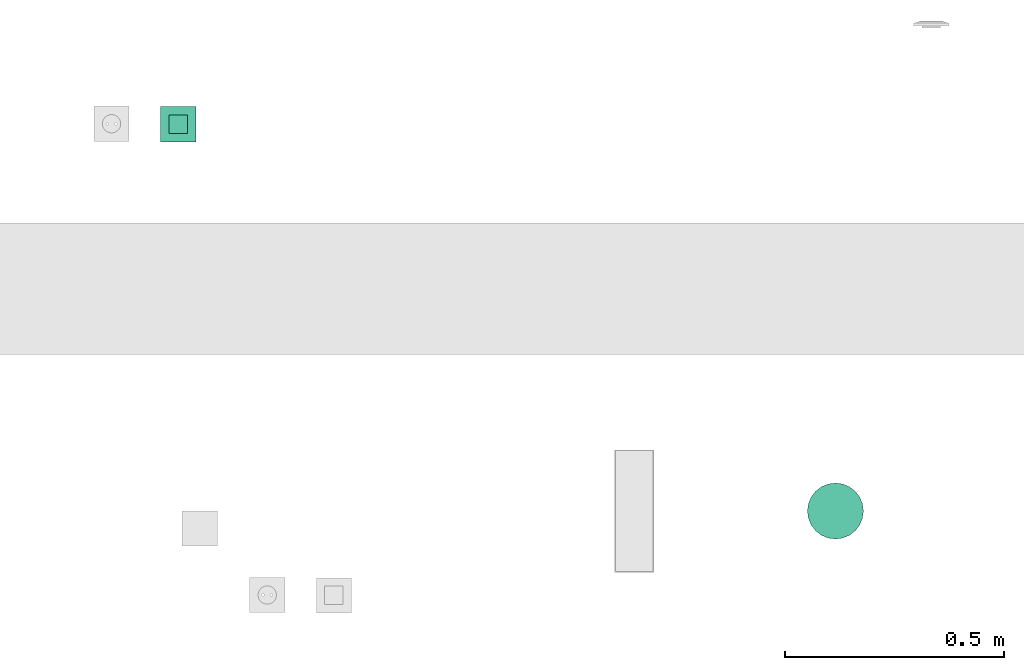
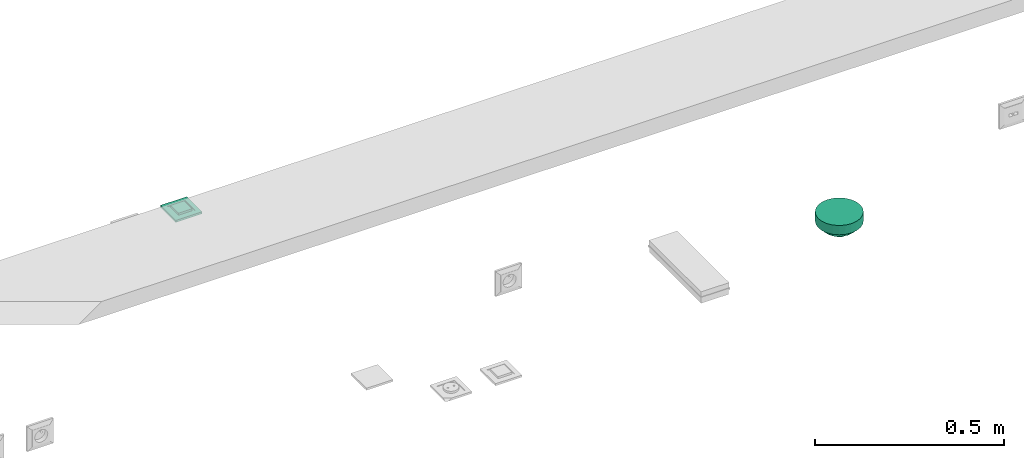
# One storey, part 86 of 146: 2 flow terminals.
"""IFC2X3 building model written with IfcOpenShell, lengths in metres."""

from ifc_helpers import new_model, entity, si_unit, converted_unit, derived_unit, direction, frame, origin, place, context, subcontext, project, spatial, faceted_brep, source, transform, mapped, type_object, type_shapes, element, save


model = new_model("IFC2X3")

# Units and contexts
model_context = context("Model", 3, precision=1e-05, world=origin(), true_north=direction((6.12303176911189e-17, 1.0)))
body_context = subcontext(model_context, "Body", "Model", "MODEL_VIEW")
ifc_project = project(units=[si_unit("LENGTHUNIT", "METRE"), si_unit("AREAUNIT", "SQUARE_METRE"), si_unit("VOLUMEUNIT", "CUBIC_METRE"), converted_unit("PLANEANGLEUNIT", "DEGREE", entity("IfcRatioMeasure", 0.0174532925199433), si_unit("PLANEANGLEUNIT", "RADIAN"), dimensions=[0, 0, 0, 0, 0, 0, 0]), si_unit("MASSUNIT", "GRAM", prefix="KILO"), derived_unit("MASSDENSITYUNIT", [(si_unit("MASSUNIT", "GRAM", prefix="KILO"), 1), (si_unit("LENGTHUNIT", "METRE"), -3)]), si_unit("TIMEUNIT", "SECOND"), si_unit("FREQUENCYUNIT", "HERTZ"), si_unit("THERMODYNAMICTEMPERATUREUNIT", "DEGREE_CELSIUS"), derived_unit("THERMALTRANSMITTANCEUNIT", [(si_unit("MASSUNIT", "GRAM", prefix="KILO"), 1), (si_unit("THERMODYNAMICTEMPERATUREUNIT", "KELVIN"), -1), (si_unit("TIMEUNIT", "SECOND"), -3)]), derived_unit("VOLUMETRICFLOWRATEUNIT", [(si_unit("LENGTHUNIT", "METRE"), 3), (si_unit("TIMEUNIT", "SECOND"), -1)]), si_unit("ELECTRICCURRENTUNIT", "AMPERE"), si_unit("ELECTRICVOLTAGEUNIT", "VOLT"), si_unit("POWERUNIT", "WATT"), si_unit("FORCEUNIT", "NEWTON"), si_unit("ILLUMINANCEUNIT", "LUX"), si_unit("LUMINOUSFLUXUNIT", "LUMEN"), si_unit("LUMINOUSINTENSITYUNIT", "CANDELA"), derived_unit("USERDEFINED", [(si_unit("MASSUNIT", "GRAM", prefix="KILO"), -1), (si_unit("LENGTHUNIT", "METRE"), -2), (si_unit("TIMEUNIT", "SECOND"), 3), (si_unit("LUMINOUSFLUXUNIT", "LUMEN"), 1)]), derived_unit("LINEARVELOCITYUNIT", [(si_unit("LENGTHUNIT", "METRE"), 1), (si_unit("TIMEUNIT", "SECOND"), -1)]), si_unit("PRESSUREUNIT", "PASCAL"), derived_unit("USERDEFINED", [(si_unit("LENGTHUNIT", "METRE"), -2), (si_unit("MASSUNIT", "GRAM", prefix="KILO"), 1), (si_unit("TIMEUNIT", "SECOND"), -2)])], contexts=[model_context])

# Site, building, storey
site_placement = place(None, origin())
site = spatial("IfcSite", under=ifc_project, at=site_placement, Name="Default", CompositionType="ELEMENT")
building_placement = place(site_placement, origin())
building = spatial("IfcBuilding", under=site, at=building_placement, CompositionType="ELEMENT")
storey_placement = place(building_placement, origin())
storey = spatial("IfcBuildingStorey", under=building, at=storey_placement, Name="S01", CompositionType="ELEMENT", Elevation=0.0)

# Flow terminals
light_fixture_type = type_object("IfcLightFixtureType", Name="Détecteur 360°", PredefinedType="NOTDEFINED")
shared_shape_1 = source(origin(), body_context, "Body", "Brep", [
    faceted_brep([(0.0, -0.0397165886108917, 0.0531256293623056), (0.0, -0.034524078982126, 0.0563702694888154), (-0.0175153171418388, -0.0435914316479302, 0.0478512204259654), (-0.0194029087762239, -0.000878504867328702, 0.0644483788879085), (0.0, 0.0, 0.0669999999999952), (0.0, 0.00603476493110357, 0.0659648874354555), (-0.0174057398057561, -0.0159851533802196, 0.0630502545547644), (-0.0366619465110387, -0.0127227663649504, 0.0549213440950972), (-0.026998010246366, -0.0195753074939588, 0.0584711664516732), (-0.0202403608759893, -0.0335607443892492, 0.054639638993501), (-0.0359767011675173, -0.0348394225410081, 0.0444249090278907), (-0.0276843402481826, -0.0401006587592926, 0.0459804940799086), (-0.0133088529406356, -0.0517577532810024, 0.0400582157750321), (-0.0172617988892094, -0.0486391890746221, 0.042533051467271), (-0.0256912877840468, -0.0533485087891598, 0.0299999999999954), (-0.0462941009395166, -0.0369183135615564, 0.0299999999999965), (0.0, -0.0241390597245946, 0.0628595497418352), (-0.0186245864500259, -0.0267295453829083, 0.0589100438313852), (-0.0139070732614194, -0.0374370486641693, 0.0540817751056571), (0.0, 0.0449090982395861, 0.049880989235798), (-0.0172618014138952, 0.0486391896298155, 0.0425330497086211), (0.0, 0.0397165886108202, 0.0531256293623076), (-0.0186245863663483, 0.0267295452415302, 0.0589100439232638), (-0.0202403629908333, 0.0335607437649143, 0.054639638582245), (-0.0353547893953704, 0.0284533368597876, 0.0494330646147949), (0.0, 0.0120695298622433, 0.0649297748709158), (-0.0249385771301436, 0.0204731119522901, 0.0590841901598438), (-0.0191783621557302, 0.0150189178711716, 0.062775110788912), (-0.0465404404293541, -0.0196510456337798, 0.0438984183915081), (-0.052010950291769, -0.0250471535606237, 0.029999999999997), (-0.0453471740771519, -0.0286501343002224, 0.0397747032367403), (-0.0365036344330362, -0.0226255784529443, 0.0516441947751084), (-0.0175153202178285, 0.0435914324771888, 0.0478512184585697), (-0.0359926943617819, 0.0451334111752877, 0.0299999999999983), (-0.0276843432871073, 0.0401006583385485, 0.0459804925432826), (-0.00849704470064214, -0.0572729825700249, 0.0299999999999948), (0.0, -0.0592123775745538, 0.0299999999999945), (0.0, -0.0545512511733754, 0.0364787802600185), (0.0, -0.049890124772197, 0.0429575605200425), (-0.0169940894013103, -0.055333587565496, 0.0299999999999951), (-0.0359767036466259, 0.0348394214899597, 0.0444249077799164), (-0.025691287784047, 0.0533485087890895, 0.0299999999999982), (-0.0308419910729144, 0.0492409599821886, 0.0299999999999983), (-0.0130265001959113, 0.0514867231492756, 0.040526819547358), (-0.0169940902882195, 0.0553335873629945, 0.029999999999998), (0.0, 0.0498901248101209, 0.0429575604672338), (-0.0353547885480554, -0.0284533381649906, 0.0494330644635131), (0.0, 0.0181042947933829, 0.0638946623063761), (-0.0473669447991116, -0.00128092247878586, 0.0474310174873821), (-0.0485435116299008, -0.00908961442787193, 0.0452357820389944), (-0.0366597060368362, -0.0032867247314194, 0.0563153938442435), (-0.0226425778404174, -0.0107553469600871, 0.0624973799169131), (0.0, -0.00603476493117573, 0.0659648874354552), (0.0, 0.0293315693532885, 0.0596149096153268), (-0.0139070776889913, 0.0374370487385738, 0.0540817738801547), (-0.0449600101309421, 0.018422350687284, 0.0461366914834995), (-0.0453471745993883, 0.0286501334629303, 0.0397747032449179), (-0.0476906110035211, 0.00670602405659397, 0.0466053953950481), (-0.0577277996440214, 0.0131759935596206, 0.0299999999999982), (-0.0577277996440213, 0.00658799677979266, 0.029999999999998), (-0.0577277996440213, 0.0, 0.0299999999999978), (0.0, -0.0449090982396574, 0.0498809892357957), (-0.0308419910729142, -0.049240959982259, 0.0299999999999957), (-0.0359926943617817, -0.0451334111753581, 0.029999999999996), (0.0, 0.0345240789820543, 0.0563702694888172), (-0.0411433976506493, 0.0410258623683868, 0.0299999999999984), (-0.0462941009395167, 0.0369183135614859, 0.0299999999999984), (-0.0491525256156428, -0.03098273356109, 0.0299999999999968), (-0.0577277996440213, -0.0131759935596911, 0.0299999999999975), (0.0, -0.018104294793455, 0.0638946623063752), (-0.0377433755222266, 0.0044838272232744, 0.0554913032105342), (-0.0577277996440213, -0.00658799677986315, 0.0299999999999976), (-0.0385149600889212, 0.0124844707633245, 0.0536578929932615), (-0.0491525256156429, 0.0309827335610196, 0.0299999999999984), (-0.0548693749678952, 0.0191115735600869, 0.0299999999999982), (0.0, 0.0241390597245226, 0.0628595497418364), (-0.014625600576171, 0.0100436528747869, 0.0649170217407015), (-0.0271766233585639, 0.00920278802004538, 0.0609170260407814), (0.0, -0.0120695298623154, 0.0649297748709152), (-0.0520109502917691, 0.0250471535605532, 0.0299999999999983), (-0.0411433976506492, -0.0410258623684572, 0.0299999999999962), (-0.0548693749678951, -0.0191115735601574, 0.0299999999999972), (0.0, -0.0293315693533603, 0.0596149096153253), (0.0, 0.0545512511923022, 0.0364787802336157), (0.0, 0.0592123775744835, 0.0299999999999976), (-0.00849704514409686, 0.057272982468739, 0.0299999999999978), (-0.0127455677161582, 0.0563032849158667, 0.0299999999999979), (-0.0213426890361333, 0.054341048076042, 0.0299999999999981), (0.0175153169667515, 0.0435914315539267, 0.0478512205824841), (0.0194029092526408, 0.000878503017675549, 0.0644483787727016), (0.017405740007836, 0.0159851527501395, 0.0630502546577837), (0.0366619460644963, 0.012722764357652, 0.0549213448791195), (0.0269980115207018, 0.0195753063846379, 0.0584711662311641), (0.0202403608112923, 0.0335607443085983, 0.0546396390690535), (0.0359767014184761, 0.0348394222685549, 0.0444249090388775), (0.0276843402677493, 0.0401006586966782, 0.0459804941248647), (0.0133088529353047, 0.0517577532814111, 0.0400582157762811), (0.0172617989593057, 0.0486391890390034, 0.0425330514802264), (0.0256912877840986, 0.0533485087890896, 0.0299999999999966), (0.0462941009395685, 0.0369183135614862, 0.0299999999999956), (0.00849704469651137, 0.0572729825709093, 0.0299999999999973), (0.0169940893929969, 0.0553335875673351, 0.029999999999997), (0.0172617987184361, -0.0486391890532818, 0.0425330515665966), (0.025691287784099, -0.0533485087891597, 0.0299999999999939), (0.0308419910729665, -0.0492409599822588, 0.0299999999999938), (0.0175153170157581, -0.0435914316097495, 0.0478512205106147), (0.0186245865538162, -0.0267295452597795, 0.0589100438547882), (0.0202403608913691, -0.03356074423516, 0.0546396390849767), (0.0353547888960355, -0.0284533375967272, 0.0494330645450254), (0.0249385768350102, -0.0204731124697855, 0.0590841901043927), (0.0191783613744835, -0.0150189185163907, 0.062775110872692), (0.0465404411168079, 0.0196510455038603, 0.0438984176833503), (0.0577277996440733, 0.0131759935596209, 0.0299999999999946), (0.0548693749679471, 0.0191115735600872, 0.0299999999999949), (0.0520109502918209, 0.0250471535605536, 0.0299999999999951), (0.0365036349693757, 0.0226255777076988, 0.0516441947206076), (0.0186245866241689, 0.0267295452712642, 0.0589100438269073), (0.0359926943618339, -0.0451334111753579, 0.0299999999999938), (0.0276843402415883, -0.0401006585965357, 0.0459804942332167), (0.0139070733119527, 0.0374370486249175, 0.0540817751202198), (0.0359767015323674, -0.0348394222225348, 0.044424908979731), (0.0226425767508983, 0.0107553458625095, 0.0624973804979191), (0.0169940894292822, -0.0553335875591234, 0.0299999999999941), (0.0130264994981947, -0.0514867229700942, 0.0405268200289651), (0.0453471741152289, 0.0286501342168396, 0.039774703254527), (0.0353547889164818, 0.0284533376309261, 0.0494330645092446), (0.0473669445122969, 0.00128092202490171, 0.0474310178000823), (0.0485435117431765, 0.00908961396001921, 0.0452357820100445), (0.0366597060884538, 0.00328672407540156, 0.0563153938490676), (0.0139070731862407, -0.0374370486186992, 0.0540817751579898), (0.0449600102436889, -0.018422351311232, 0.0461366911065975), (0.0453471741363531, -0.0286501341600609, 0.039774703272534), (0.0476906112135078, -0.00670602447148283, 0.046605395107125), (0.0577277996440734, -0.0131759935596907, 0.0299999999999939), (0.0577277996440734, -0.00658799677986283, 0.0299999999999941), (0.0577277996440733, 0.0, 0.0299999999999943), (0.0308419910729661, 0.0492409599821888, 0.0299999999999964), (0.0359926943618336, 0.0451334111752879, 0.0299999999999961), (0.0411433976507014, -0.041025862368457, 0.0299999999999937), (0.0462941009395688, -0.0369183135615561, 0.0299999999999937), (0.0491525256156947, 0.0309827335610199, 0.0299999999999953), (0.037743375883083, -0.00448382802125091, 0.0554913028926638), (0.0577277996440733, 0.00658799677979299, 0.0299999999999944), (0.0385149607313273, -0.0124844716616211, 0.0536578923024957), (0.049152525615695, -0.0309827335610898, 0.0299999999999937), (0.0548693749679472, -0.0191115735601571, 0.0299999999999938), (0.0146256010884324, -0.0100436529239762, 0.0649170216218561), (0.0271766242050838, -0.00920278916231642, 0.0609170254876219), (0.0520109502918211, -0.0250471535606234, 0.0299999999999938), (0.041143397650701, 0.0410258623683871, 0.0299999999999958), (0.00849704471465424, -0.0572729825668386, 0.0299999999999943), (0.0127455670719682, -0.056303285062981, 0.0299999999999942), (0.0213426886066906, -0.0543410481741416, 0.029999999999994), (0.0, 0.0, 0.0299999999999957)], [[[0, 1, 2]], [[3, 4, 5]], [[6, 7, 8]], [[9, 10, 11]], [[12, 13, 14]], [[10, 15, 11]], [[9, 16, 17]], [[18, 9, 11]], [[19, 20, 21]], [[22, 23, 24]], [[25, 26, 27]], [[28, 29, 30]], [[8, 31, 17]], [[32, 33, 34]], [[35, 36, 37, 38, 39]], [[23, 40, 24]], [[20, 41, 42]], [[19, 43, 20]], [[44, 43, 45]], [[20, 32, 21]], [[30, 10, 46]], [[22, 26, 47]], [[48, 49, 50]], [[3, 51, 52]], [[53, 54, 23]], [[55, 24, 56]], [[57, 58, 59, 60]], [[13, 61, 0]], [[13, 0, 2]], [[2, 62, 13]], [[18, 2, 1]], [[2, 11, 63]], [[32, 64, 21]], [[32, 42, 33]], [[34, 33, 65, 66]], [[20, 42, 32]], [[54, 32, 34]], [[28, 30, 31]], [[10, 67, 15]], [[49, 68, 28]], [[8, 17, 69]], [[7, 6, 51]], [[28, 31, 7]], [[57, 48, 70]], [[58, 57, 55]], [[48, 71, 49]], [[70, 48, 50]], [[3, 50, 51]], [[55, 26, 24]], [[72, 57, 70]], [[26, 55, 72]], [[56, 40, 73]], [[56, 74, 55]], [[47, 75, 22]], [[52, 4, 3]], [[7, 50, 49]], [[5, 76, 3]], [[70, 3, 77]], [[51, 78, 52]], [[26, 25, 47]], [[76, 25, 27]], [[23, 22, 75]], [[26, 22, 24]], [[53, 64, 54]], [[23, 34, 40]], [[66, 40, 34]], [[40, 66, 73]], [[56, 73, 79, 74]], [[72, 27, 26]], [[40, 56, 24]], [[23, 75, 53]], [[69, 17, 16]], [[78, 6, 69]], [[46, 10, 9]], [[46, 9, 17]], [[50, 7, 51]], [[30, 29, 67]], [[80, 63, 11, 15]], [[28, 68, 81, 29]], [[10, 30, 67]], [[30, 46, 31]], [[82, 18, 1]], [[82, 16, 9]], [[28, 7, 49]], [[12, 39, 38]], [[61, 13, 12]], [[83, 84, 85, 86, 44, 45]], [[43, 41, 20]], [[44, 87, 41, 43]], [[32, 54, 64]], [[23, 54, 34]], [[9, 18, 82]], [[2, 18, 11]], [[39, 12, 14]], [[38, 61, 12]], [[62, 2, 63]], [[62, 14, 13]], [[17, 31, 46]], [[7, 31, 8]], [[48, 60, 71]], [[71, 68, 49]], [[60, 48, 57]], [[3, 70, 50]], [[72, 70, 77]], [[72, 77, 27]], [[55, 57, 72]], [[74, 58, 55]], [[76, 27, 77]], [[3, 76, 77]], [[25, 76, 5]], [[69, 6, 8]], [[78, 51, 6]], [[45, 43, 19]], [[21, 64, 88]], [[89, 4, 52]], [[90, 91, 92]], [[93, 94, 95]], [[96, 97, 98]], [[94, 99, 95]], [[100, 84, 83, 45, 101]], [[102, 103, 104]], [[102, 105, 0]], [[106, 107, 108]], [[78, 109, 110]], [[111, 112, 113, 114]], [[92, 115, 116]], [[105, 117, 118]], [[119, 93, 95]], [[107, 120, 108]], [[89, 121, 5]], [[122, 123, 38]], [[61, 123, 102]], [[93, 75, 116]], [[124, 94, 125]], [[106, 109, 69]], [[126, 127, 128]], [[61, 102, 0]], [[82, 129, 107]], [[130, 108, 131]], [[132, 133, 134, 135]], [[97, 19, 21]], [[97, 21, 88]], [[88, 136, 97]], [[119, 88, 64]], [[88, 95, 137]], [[105, 1, 0]], [[105, 104, 117]], [[118, 117, 138, 139]], [[102, 104, 105]], [[129, 105, 118]], [[111, 124, 115]], [[94, 140, 99]], [[127, 112, 111]], [[92, 116, 47]], [[91, 90, 121]], [[111, 115, 91]], [[132, 126, 141]], [[133, 132, 130]], [[126, 142, 127]], [[141, 126, 128]], [[89, 128, 121]], [[130, 109, 108]], [[143, 132, 141]], [[109, 130, 143]], [[131, 120, 144]], [[131, 145, 130]], [[69, 16, 106]], [[5, 4, 89]], [[91, 128, 127]], [[52, 146, 89]], [[141, 89, 147]], [[121, 25, 5]], [[109, 78, 69]], [[146, 78, 110]], [[107, 106, 16]], [[109, 106, 108]], [[82, 1, 129]], [[107, 118, 120]], [[139, 120, 118]], [[120, 139, 144]], [[131, 144, 148, 145]], [[143, 110, 109]], [[120, 131, 108]], [[107, 16, 82]], [[47, 116, 75]], [[25, 90, 47]], [[125, 94, 93]], [[125, 93, 116]], [[128, 91, 121]], [[124, 114, 140]], [[149, 137, 95, 99]], [[111, 114, 124]], [[94, 124, 140]], [[124, 125, 115]], [[53, 119, 64]], [[53, 75, 93]], [[111, 91, 127]], [[96, 101, 45]], [[19, 97, 96]], [[37, 36, 150, 151, 122, 38]], [[123, 103, 102]], [[122, 152, 103, 123]], [[105, 129, 1]], [[107, 129, 118]], [[93, 119, 53]], [[88, 119, 95]], [[101, 96, 98]], [[45, 19, 96]], [[136, 88, 137]], [[136, 98, 97]], [[116, 115, 125]], [[91, 115, 92]], [[126, 135, 142]], [[142, 112, 127]], [[135, 126, 132]], [[89, 141, 128]], [[143, 141, 147]], [[143, 147, 110]], [[130, 132, 143]], [[145, 133, 130]], [[146, 110, 147]], [[89, 146, 147]], [[78, 146, 52]], [[47, 90, 92]], [[25, 121, 90]], [[38, 123, 61]], [[153, 66, 65]], [[153, 65, 33]], [[153, 33, 42]], [[153, 42, 41]], [[153, 41, 87]], [[153, 73, 66]], [[153, 79, 73]], [[153, 74, 79]], [[153, 58, 74]], [[153, 87, 44]], [[153, 44, 86]], [[153, 86, 85]], [[153, 85, 84]], [[153, 84, 100]], [[153, 59, 58]], [[153, 60, 59]], [[153, 71, 60]], [[153, 68, 71]], [[153, 81, 68]], [[153, 29, 81]], [[153, 67, 29]], [[153, 15, 67]], [[153, 80, 15]], [[153, 63, 80]], [[153, 62, 63]], [[153, 14, 62]], [[153, 39, 14]], [[153, 35, 39]], [[153, 36, 35]], [[153, 100, 101]], [[153, 101, 98]], [[153, 98, 136]], [[153, 136, 137]], [[153, 137, 149]], [[153, 149, 99]], [[153, 99, 140]], [[153, 140, 114]], [[153, 114, 113]], [[153, 113, 112]], [[153, 112, 142]], [[153, 150, 36]], [[153, 151, 150]], [[153, 122, 151]], [[153, 152, 122]], [[153, 103, 152]], [[153, 104, 103]], [[153, 117, 104]], [[153, 138, 117]], [[153, 139, 138]], [[153, 144, 139]], [[153, 148, 144]], [[153, 145, 148]], [[153, 133, 145]], [[153, 142, 135]], [[153, 135, 134]], [[153, 134, 133]]]),
    faceted_brep([(0.0165644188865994, -0.0618192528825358, 0.029999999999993), (0.0320000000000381, -0.0554256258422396, 0.0299999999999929), (0.0452548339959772, -0.0452548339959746, 0.0299999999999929), (0.0554256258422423, -0.0320000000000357, 0.029999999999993), (0.0618192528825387, -0.016564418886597, 0.0299999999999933), (0.0640000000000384, 0.0, 0.0299999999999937), (0.0618192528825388, 0.016564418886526, 0.0299999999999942), (0.0554256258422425, 0.0319999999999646, 0.0299999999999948), (0.0452548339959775, 0.0452548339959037, 0.0299999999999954), (0.0320000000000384, 0.0554256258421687, 0.0299999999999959), (0.0165644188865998, 0.061819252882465, 0.0299999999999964), (0.0, 0.0639999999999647, 0.0299999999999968), (-0.0165644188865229, 0.061819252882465, 0.0299999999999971), (-0.0319999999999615, 0.0554256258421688, 0.0299999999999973), (-0.0452548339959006, 0.0452548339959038, 0.0299999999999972), (-0.0554256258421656, 0.0319999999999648, 0.0299999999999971), (-0.0618192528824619, 0.0165644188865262, 0.0299999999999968), (-0.0639999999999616, 0.0, 0.0299999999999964), (-0.061819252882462, -0.0165644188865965, 0.0299999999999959), (-0.0554256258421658, -0.0320000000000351, 0.0299999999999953), (-0.0452548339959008, -0.0452548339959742, 0.0299999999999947), (-0.0319999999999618, -0.0554256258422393, 0.0299999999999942), (-0.0165644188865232, -0.0618192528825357, 0.0299999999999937), (0.0, -0.0640000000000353, 0.0299999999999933), (0.0165644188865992, 0.0618192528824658, 0.0), (0.0320000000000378, 0.0554256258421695, 0.0), (0.0452548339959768, 0.0452548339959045, 0.0), (0.0554256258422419, 0.0319999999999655, 0.0), (0.0618192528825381, 0.0165644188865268, 0.0), (0.0640000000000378, 0.0, 0.0), (0.061819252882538, -0.0165644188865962, 0.0), (0.0554256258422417, -0.0320000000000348, 0.0), (0.0452548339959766, -0.0452548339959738, 0.0), (0.0320000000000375, -0.0554256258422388, 0.0), (0.0165644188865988, -0.061819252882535, 0.0), (0.0, -0.0640000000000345, 0.0), (-0.0165644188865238, -0.0618192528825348, 0.0), (-0.0319999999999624, -0.0554256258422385, 0.0), (-0.0452548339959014, -0.0452548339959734, 0.0), (-0.0554256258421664, -0.0320000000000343, 0.0), (-0.0618192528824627, -0.0165644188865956, 0.0), (-0.0639999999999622, 0.0, 0.0), (-0.0618192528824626, 0.016564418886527, 0.0), (-0.0554256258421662, 0.0319999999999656, 0.0), (-0.0452548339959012, 0.0452548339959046, 0.0), (-0.0319999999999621, 0.0554256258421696, 0.0), (-0.0165644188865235, 0.0618192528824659, 0.0), (0.0, 0.0639999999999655, 0.0)], [[[0, 1, 2, 3, 4, 5, 6, 7, 8, 9, 10, 11, 12, 13, 14, 15, 16, 17, 18, 19, 20, 21, 22, 23]], [[24, 25, 26, 27, 28, 29, 30, 31, 32, 33, 34, 35, 36, 37, 38, 39, 40, 41, 42, 43, 44, 45, 46, 47]], [[40, 18, 17, 41]], [[39, 19, 18, 40]], [[21, 20, 38, 37]], [[39, 38, 20, 19]], [[22, 21, 37, 36]], [[23, 22, 36, 35]], [[34, 0, 23, 35]], [[33, 1, 0, 34]], [[3, 2, 32, 31]], [[33, 32, 2, 1]], [[4, 3, 31, 30]], [[5, 4, 30, 29]], [[28, 6, 5, 29]], [[27, 7, 6, 28]], [[9, 8, 26, 25]], [[27, 26, 8, 7]], [[10, 9, 25, 24]], [[11, 10, 24, 47]], [[46, 12, 11, 47]], [[45, 13, 12, 46]], [[42, 41, 17, 16]], [[44, 14, 13, 45]], [[43, 15, 14, 44]], [[43, 42, 16, 15]]]),
])
type_shapes(light_fixture_type, [shared_shape_1])
flow_terminal_1_placement = place(building_placement, frame((58.3729836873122, -189.208069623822, 3.37), z_axis=(0.0, 0.0, -1.0), x_axis=(-1.0, 0.0, 0.0)))
element("IfcFlowTerminal", 1, at=flow_terminal_1_placement, inside=storey, type_object=light_fixture_type, Name="INT - Détecteur Luminosite:Détecteur 360°", ObjectType="INT - Détecteur Luminosite:Détecteur 360°", context=body_context, shape_type="MappedRepresentation", body=[
    mapped(shared_shape_1, transform((0.0, 0.0, 0.0), scale=1.0)),
])
electric_appliance_type = type_object("IfcElectricApplianceType", Name="RJ45 IP21", PredefinedType="NOTDEFINED")
shared_shape_2 = source(origin(), body_context, "Body", "Brep", [
    faceted_brep([(0.00200000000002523, 0.0, 0.00799999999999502), (0.00400000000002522, 0.0, 0.00799999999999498), (0.00500000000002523, 0.00199999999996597, 0.00799999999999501), (0.0110000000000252, 0.00199999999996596, 0.00799999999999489), (0.0120000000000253, 0.0, 0.00799999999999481), (0.0140000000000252, 0.0, 0.00799999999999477), (0.0140000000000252, 0.00399999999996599, 0.00799999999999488), (0.00200000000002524, 0.00399999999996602, 0.00799999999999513), (0.00200000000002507, 0.0, 0.0), (0.00200000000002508, 0.00399999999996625, 0.0), (0.0140000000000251, 0.00399999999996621, 0.0), (0.0140000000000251, 0.0, 0.0), (0.0120000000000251, 0.0, 0.0), (0.0110000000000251, 0.00199999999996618, 0.0), (0.00500000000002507, 0.0019999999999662, 0.0), (0.00400000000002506, 0.0, 0.0)], [[[0, 1, 2, 3, 4, 5, 6, 7]], [[8, 9, 10, 11, 12, 13, 14, 15]], [[1, 0, 8, 15]], [[2, 1, 15, 14]], [[3, 2, 14, 13]], [[4, 3, 13, 12]], [[5, 4, 12, 11]], [[6, 5, 11, 10]], [[7, 6, 10, 9]], [[0, 7, 9, 8]]]),
    faceted_brep([(-0.0139999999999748, 0.0, 0.00799999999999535), (-0.0119999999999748, 0.0, 0.00799999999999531), (-0.0109999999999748, 0.00199999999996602, 0.00799999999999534), (-0.00499999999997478, 0.00199999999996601, 0.00799999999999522), (-0.0039999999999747, 0.0, 0.00799999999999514), (-0.00199999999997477, 0.0, 0.0079999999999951), (-0.00199999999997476, 0.00399999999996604, 0.00799999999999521), (-0.0139999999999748, 0.00399999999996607, 0.00799999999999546), (-0.0139999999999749, 0.0, 0.0), (-0.0139999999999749, 0.00399999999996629, 0.0), (-0.00199999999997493, 0.00399999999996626, 0.0), (-0.00199999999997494, 0.0, 0.0), (-0.00399999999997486, 0.0, 0.0), (-0.00499999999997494, 0.00199999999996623, 0.0), (-0.0109999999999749, 0.00199999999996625, 0.0), (-0.0119999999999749, 0.0, 0.0)], [[[0, 1, 2, 3, 4, 5, 6, 7]], [[8, 9, 10, 11, 12, 13, 14, 15]], [[1, 0, 8, 15]], [[2, 1, 15, 14]], [[3, 2, 14, 13]], [[4, 3, 13, 12]], [[5, 4, 12, 11]], [[6, 5, 11, 10]], [[7, 6, 10, 9]], [[0, 7, 9, 8]]]),
    faceted_brep([(0.0140000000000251, 0.00399999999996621, 0.0), (0.00200000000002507, 0.00399999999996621, 0.0), (0.00200000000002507, -0.00350000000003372, 0.0), (0.0140000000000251, -0.00350000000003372, 0.0), (0.0140000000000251, 0.00399999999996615, 0.00199999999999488), (0.00200000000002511, 0.00399999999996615, 0.00199999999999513), (0.00200000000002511, -0.00393859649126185, 0.00199999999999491), (0.0140000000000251, -0.00393859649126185, 0.00199999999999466), (0.0210000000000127, 0.0209999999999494, 0.00199999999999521), (-0.0209999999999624, 0.0209999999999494, 0.00199999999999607), (-0.0209999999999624, -0.0210000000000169, 0.00199999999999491), (0.0210000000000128, -0.0210000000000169, 0.00199999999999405), (-0.0139999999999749, 0.0039999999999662, 0.00199999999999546), (-0.0019999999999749, 0.0039999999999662, 0.00199999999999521), (-0.00199999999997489, -0.0039385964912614, 0.00199999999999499), (-0.0139999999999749, -0.00393859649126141, 0.00199999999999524), (0.0210000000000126, 0.0209999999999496, -0.00460000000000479), (0.0210000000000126, -0.0210000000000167, -0.00460000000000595), (-0.0209999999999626, -0.0210000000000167, -0.00460000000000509), (-0.0209999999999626, 0.0209999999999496, -0.00460000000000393), (-0.00199999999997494, 0.00399999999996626, 0.0), (-0.0139999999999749, 0.00399999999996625, 0.0), (-0.0139999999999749, -0.00350000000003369, 0.0), (-0.00199999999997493, -0.00350000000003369, 0.0)], [[[0, 1, 2, 3]], [[1, 0, 4, 5]], [[2, 1, 5, 6]], [[3, 2, 6, 7]], [[0, 3, 7, 4]], [[5, 4, 7, 6], [8, 9, 10, 11], [12, 13, 14, 15]], [[16, 17, 18, 19]], [[9, 8, 16, 19]], [[10, 9, 19, 18]], [[11, 10, 18, 17]], [[8, 11, 17, 16]], [[20, 21, 22, 23]], [[21, 20, 13, 12]], [[22, 21, 12, 15]], [[23, 22, 15, 14]], [[20, 23, 14, 13]]], outer=[[True], [True], [True], [True], [True], [False, True, False], [True], [True], [True], [True], [True], [True], [True], [True], [True], [True]]),
    faceted_brep([(0.0270000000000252, 0.026999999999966, 0.0113999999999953), (-0.0269999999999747, 0.026999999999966, 0.0113999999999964), (-0.0269999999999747, -0.0270000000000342, 0.0113999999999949), (0.0270000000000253, -0.0270000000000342, 0.0113999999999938), (0.0020000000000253, 0.00399999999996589, 0.0113999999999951), (0.0140000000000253, 0.00399999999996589, 0.0113999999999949), (0.0140000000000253, -0.00600000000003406, 0.0113999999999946), (0.0020000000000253, -0.00600000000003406, 0.0113999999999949), (-0.0139999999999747, 0.00399999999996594, 0.0113999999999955), (-0.00199999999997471, 0.00399999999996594, 0.0113999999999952), (-0.00199999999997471, -0.0060000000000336, 0.0113999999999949), (-0.0139999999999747, -0.00600000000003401, 0.0113999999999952), (0.0270000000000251, 0.0269999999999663, 0.00199999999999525), (0.0270000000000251, -0.0270000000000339, 0.00199999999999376), (-0.0269999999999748, -0.0270000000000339, 0.00199999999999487), (-0.0269999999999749, 0.0269999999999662, 0.00199999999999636), (0.0140000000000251, 0.00399999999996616, 0.00199999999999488), (0.00200000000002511, 0.00399999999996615, 0.00199999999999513), (0.00200000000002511, -0.00393859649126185, 0.00199999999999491), (0.0140000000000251, -0.00393859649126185, 0.00199999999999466), (-0.00199999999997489, 0.0039999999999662, 0.00199999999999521), (-0.0139999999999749, 0.0039999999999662, 0.00199999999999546), (-0.0139999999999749, -0.0039385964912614, 0.00199999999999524), (-0.00199999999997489, -0.0039385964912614, 0.00199999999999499)], [[[0, 1, 2, 3], [4, 5, 6, 7], [8, 9, 10, 11]], [[12, 13, 14, 15], [16, 17, 18, 19], [20, 21, 22, 23]], [[1, 0, 12, 15]], [[2, 1, 15, 14]], [[3, 2, 14, 13]], [[0, 3, 13, 12]], [[4, 17, 16, 5]], [[17, 4, 7, 18]], [[18, 7, 6, 19]], [[5, 16, 19, 6]], [[8, 21, 20, 9]], [[21, 8, 11, 22]], [[22, 11, 10, 23]], [[9, 20, 23, 10]]]),
    faceted_brep([(0.027000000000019, 0.0269999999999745, 0.00659999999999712), (-0.0269999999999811, 0.0269999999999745, 0.00659999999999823), (-0.026999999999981, -0.0270000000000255, 0.00659999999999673), (0.027000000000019, -0.0270000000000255, 0.00659999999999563), (0.040350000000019, 0.0403499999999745, 0.00659999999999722), (0.040350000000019, -0.0403500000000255, 0.00659999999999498), (-0.0403499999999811, -0.0403500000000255, 0.00659999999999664), (-0.0403499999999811, 0.0403499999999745, 0.00659999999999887), (-0.026999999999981, 0.0269999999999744, 0.0103999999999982), (0.027000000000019, 0.0269999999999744, 0.0103999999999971), (-0.026999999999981, -0.0270000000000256, 0.0103999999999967), (0.027000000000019, -0.0270000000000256, 0.0103999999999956)], [[[0, 1, 2, 3], [4, 5, 6, 7]], [[4, 7, 8, 9]], [[7, 6, 10, 8]], [[6, 5, 11, 10]], [[5, 4, 9, 11]], [[0, 9, 8, 1]], [[1, 8, 10, 2]], [[2, 10, 11, 3]], [[9, 0, 3, 11]]], outer=[[False, True], [True], [True], [True], [True], [True], [True], [True], [True]]),
    faceted_brep([(0.040350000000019, 0.0403499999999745, 0.00659999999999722), (-0.0403499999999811, 0.0403499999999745, 0.00659999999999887), (-0.0403499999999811, -0.0403500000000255, 0.00659999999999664), (0.040350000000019, -0.0403500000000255, 0.00659999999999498), (-0.0269999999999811, 0.0269999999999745, 0.00659999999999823), (0.0270000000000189, 0.0269999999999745, 0.00659999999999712), (0.0270000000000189, -0.0270000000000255, 0.00659999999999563), (-0.0269999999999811, -0.0270000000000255, 0.00659999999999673), (0.0403500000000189, 0.0403499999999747, 0.0), (0.0403500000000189, -0.0403500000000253, 0.0), (-0.0403499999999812, -0.0403500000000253, 0.0), (-0.0403499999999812, 0.0403499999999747, 0.0), (0.0270000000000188, 0.0269999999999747, 0.0), (-0.0269999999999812, 0.0269999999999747, 0.0), (-0.0269999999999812, -0.0270000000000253, 0.0), (0.0270000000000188, -0.0270000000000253, 0.0)], [[[0, 1, 2, 3], [4, 5, 6, 7]], [[8, 9, 10, 11], [12, 13, 14, 15]], [[1, 0, 8, 11]], [[2, 1, 11, 10]], [[3, 2, 10, 9]], [[0, 3, 9, 8]], [[12, 5, 4, 13]], [[13, 4, 7, 14]], [[14, 7, 6, 15]], [[5, 12, 15, 6]]]),
])
type_shapes(electric_appliance_type, [shared_shape_2])
flow_terminal_2_placement = place(storey_placement, frame((56.8707373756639, -188.3237547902, 3.37), z_axis=(0.0, 0.0, -1.0), x_axis=(-1.0, 0.0, 0.0)))
element("IfcFlowTerminal", 2, at=flow_terminal_2_placement, inside=storey, type_object=electric_appliance_type, Name="INT_Prise RJ45:RJ45 IP21", ObjectType="INT_Prise RJ45:RJ45 IP21", context=body_context, shape_type="MappedRepresentation", body=[
    mapped(shared_shape_2, transform((0.0, 0.0, 0.0), scale=1.0)),
])

save(model, "model.ifc")
